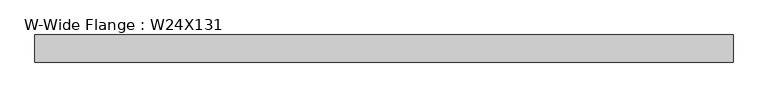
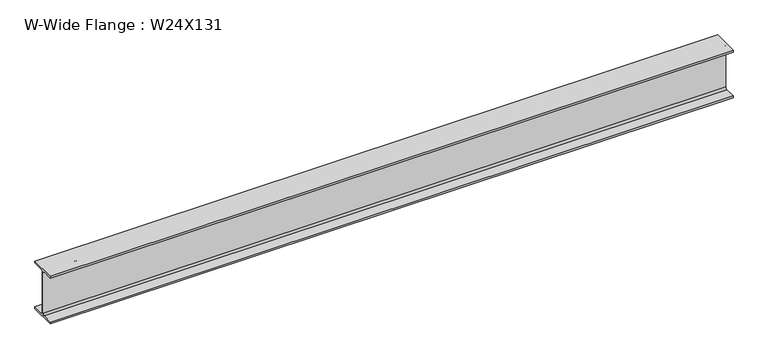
"""IFC4 building model written with IfcOpenShell, lengths in millimetres: beam geometry, W-Wide Flange : W24X131."""

from ifc_helpers import new_model, si_unit, point, frame, frame_2d, origin, place, context, project, spatial, polyline, circle_curve, trimmed, segment, composite_curve, outline, extrude, source, transform, mapped, element, save


def w_wide_flange_w24x131_18549e9f(model_context):
    return source(origin(), model_context, "Body", "SweptSolid", [
        extrude(outline(composite_curve([segment(polyline([(163.83, -286.766), (163.83, -311.15), (-163.83, -311.15), (-163.83, -286.766), (-30.9245, -286.766)]), True, "CONTINUOUS"), segment(trimmed(circle_curve(frame_2d((-30.9245, -263.525)), 23.241), [point((-30.9245, -286.766))], [point((-7.6835, -263.525))], True, "CARTESIAN"), True, "CONTINUOUS"), segment(polyline([(-7.6835, -263.525), (-7.6835, 263.525)]), True, "CONTINUOUS"), segment(trimmed(circle_curve(frame_2d((-30.9245, 263.525)), 23.241), [point((-7.6835, 263.525))], [point((-30.9245, 286.766))], True, "CARTESIAN"), True, "CONTINUOUS"), segment(polyline([(-30.9245, 286.766), (-163.83, 286.766), (-163.83, 311.15), (163.83, 311.15), (163.83, 286.766), (30.9245, 286.766)]), True, "CONTINUOUS"), segment(trimmed(circle_curve(frame_2d((30.9245, 263.525)), 23.241), [point((30.9245, 286.766))], [point((7.6835, 263.525))], True, "CARTESIAN"), True, "CONTINUOUS"), segment(polyline([(7.6835, 263.525), (7.6835, -263.525)]), True, "CONTINUOUS"), segment(trimmed(circle_curve(frame_2d((30.9245, -263.525)), 23.241), [point((7.6835, -263.525))], [point((30.9245, -286.766))], True, "CARTESIAN"), True, "CONTINUOUS"), segment(polyline([(30.9245, -286.766), (163.83, -286.766)]), True, "CONTINUOUS")], self_intersect=False)), frame((-4213.6230758, 0.0, 0.0), z_axis=(1.0, 0.0, 0.0), x_axis=(0.0, 1.0, 0.0)), (0.0, 0.0, 1.0), 8427.2461516),
    ])


if __name__ == "__main__":
    model = new_model("IFC4")
    model_context = context("Model", 3, world=origin())
    ifc_project = project(units=[si_unit("LENGTHUNIT", "METRE", prefix="MILLI")], contexts=[model_context])
    site = spatial("IfcSite", under=ifc_project)
    building = spatial("IfcBuilding", under=site)
    placement = place(None, origin())
    w_wide_flange_w24x131_shape = w_wide_flange_w24x131_18549e9f(model_context)
    element("IfcBeam", 1, ObjectType="W-Wide Flange : W24X131", at=placement, inside=building, context=model_context, shape_type="MappedRepresentation", body=[
        mapped(w_wide_flange_w24x131_shape, transform((0.0, 0.0, 0.0), x_axis=(1.0, 0.0, 0.0), y_axis=(0.0, 1.0, 0.0), z_axis=(0.0, 0.0, 1.0))),
    ])
    save(model, "model.ifc")
